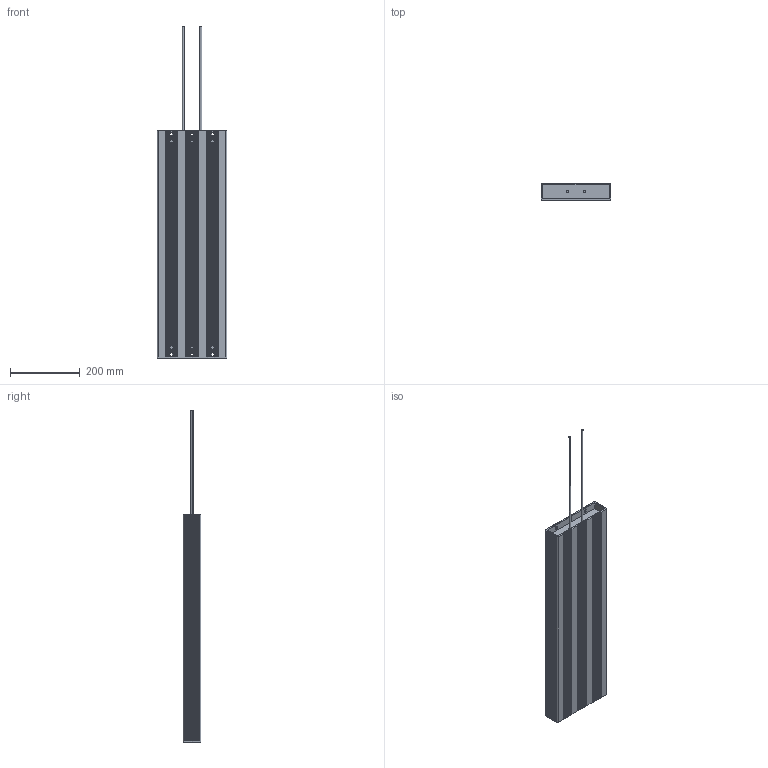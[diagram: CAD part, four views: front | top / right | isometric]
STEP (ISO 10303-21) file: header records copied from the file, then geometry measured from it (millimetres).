
FILE_DESCRIPTION (( 'STEP AP203' ), '1' );
FILE_NAME ('Ðåçèñòîð òîðìîçíîé _ IBRA-33-11000-IP54.STEP', '2025-03-28T06:30:50', ( '' ), ( '' ), 'SwSTEP 2.0', 'SolidWorks 2021', '' );
FILE_SCHEMA (( 'CONFIG_CONTROL_DESIGN' ));
Length unit declared in the file: millimetre
Products named in the file (1): Ðåçèñòîð òîðìîçíîé _ IBRA-33-11000-IP54
Bounding box: 200 x 50 x 950 mm (x, y, z)
Volume: 6096079.9 mm3; surface area: 446259.9 mm2
Topology: 1 solids, 1 shells, 854 faces, 2484 edges, 1624 vertices
Faces by surface type: plane 534, cylinder 320
Entity records: 28897 total; most frequent: CARTESIAN_POINT 6115, ORIENTED_EDGE 4968, DIRECTION 4546, EDGE_CURVE 2484, VECTOR 1748, LINE 1748, VERTEX_POINT 1624, AXIS2_PLACEMENT_3D 1399
